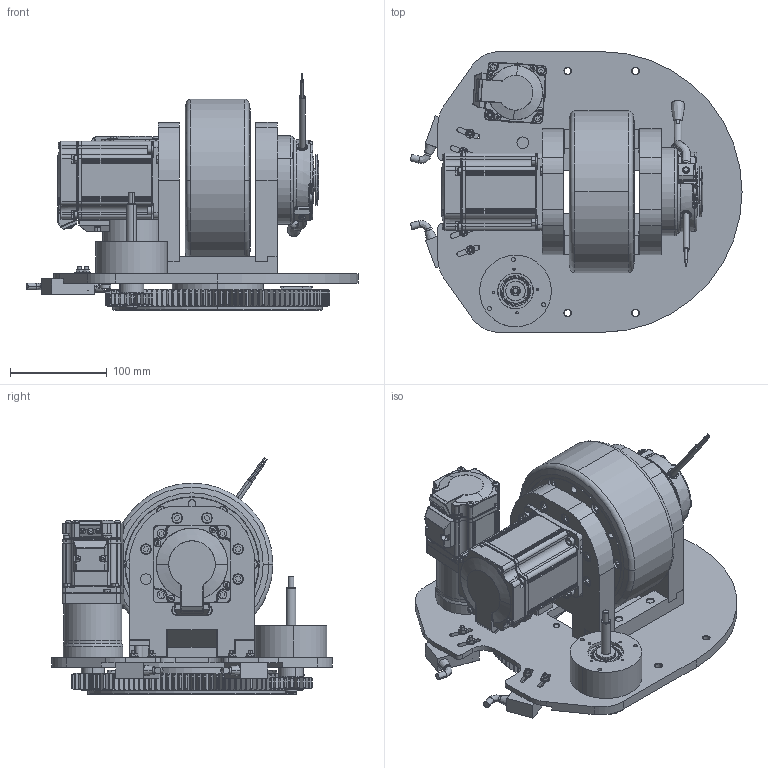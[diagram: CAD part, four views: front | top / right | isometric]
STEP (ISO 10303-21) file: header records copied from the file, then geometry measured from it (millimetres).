
FILE_DESCRIPTION (( 'STEP AP214' ), '1' );
FILE_NAME ('TEC-167P750SP-48HS.STEP', '2021-08-11T02:13:26', ( 'admin' ), ( 'Microsoft' ), 'SwSTEP 2.0', 'SolidWorks 2012', '' );
FILE_SCHEMA (( 'AUTOMOTIVE_DESIGN' ));
Length unit declared in the file: millimetre
Products named in the file (1): TEC-167P750SP-48HS
Bounding box: 342.83 x 290 x 244.33 mm (x, y, z)
Surface area: 618732.7 mm2 (no closed solid volume)
Topology: 0 solids, 205 shells, 3027 faces, 10604 edges, 7595 vertices
Faces by surface type: cylinder 1195, plane 1104, cone 353, torus 182, bspline 131, sphere 62
Entity records: 182931 total; most frequent: CARTESIAN_POINT 59015, DIRECTION 19885, ORIENTED_EDGE 16513, EDGE_CURVE 10589, VERTEX_POINT 7594, AXIS2_PLACEMENT_3D 7568, LINE 4749, VECTOR 4749
